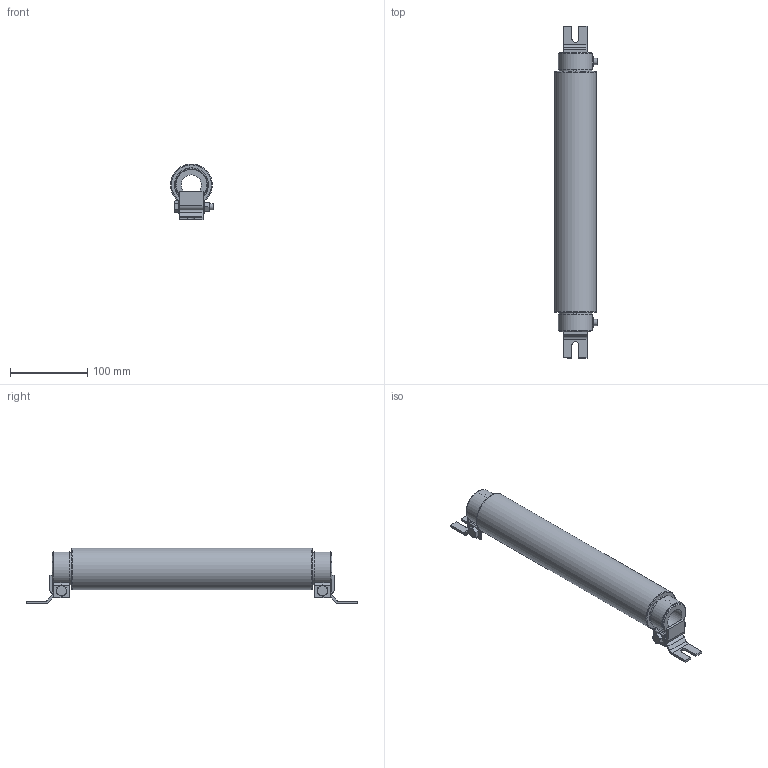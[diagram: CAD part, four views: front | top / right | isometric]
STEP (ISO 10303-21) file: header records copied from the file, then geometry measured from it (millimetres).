
FILE_DESCRIPTION(/* description */ (' '),/* implementation_level */ '2;1');
FILE_NAME(/* name */ 'C52TF',/* time_stamp */ '2017-12-06T13:24:57+01:00',/* author */ ('VISHAY MCB INDUSTRIE'),/* organization */ (' '),/* preprocessor_version */ 'ST-DEVELOPER v16.7',/* originating_system */ 'DEX',/* authorisation */ $);
FILE_SCHEMA (('AUTOMOTIVE_DESIGN {1 0 10303 214 3 1 1}'));
Length unit declared in the file: millimetre
Products named in the file (8): 065; 745562; 065-04 email; 144332; 260005; Vis HM 8x45 filetée 22; rondelle éventail D8; Ecrou HM8
Assembly tree (12 placements, depth 2):
  065
    745562
    065-04 email
    144332  x2
    260005  x2
    Vis HM 8x45 filetée 22  x2
    rondelle éventail D8  x2
    Ecrou HM8  x2
Bounding box: 55.5 x 430 x 72.4 mm (x, y, z)
Volume: 625816.5 mm3; surface area: 229662.6 mm2
Topology: 12 solids, 12 shells, 548 faces, 1343 edges, 825 vertices
Faces by surface type: plane 268, cylinder 148, bspline 88, cone 40, torus 4
Full cylindrical faces by diameter (mm): 6.647 x2, 8 x4, 8.01 x2, 8.5 x4, 26 x1, 38 x2, 52 x2, 54 x1
Entity records: 9238 total; most frequent: CARTESIAN_POINT 3041, ORIENTED_EDGE 1352, DIRECTION 882, EDGE_CURVE 676, B_SPLINE_CURVE_WITH_KNOTS 441, VERTEX_POINT 424, AXIS2_PLACEMENT_3D 392, EDGE_LOOP 318
